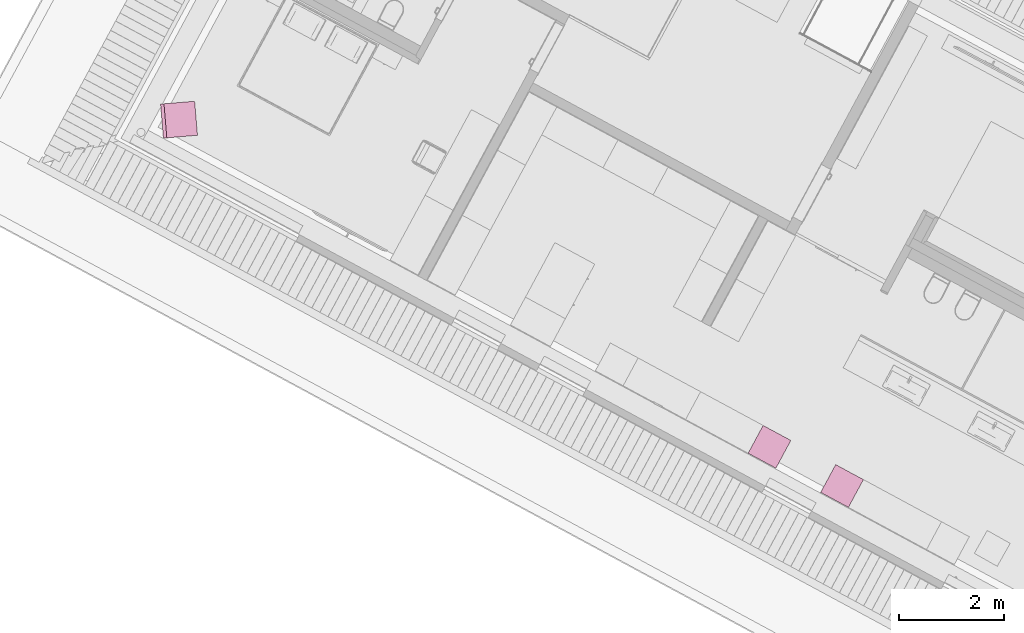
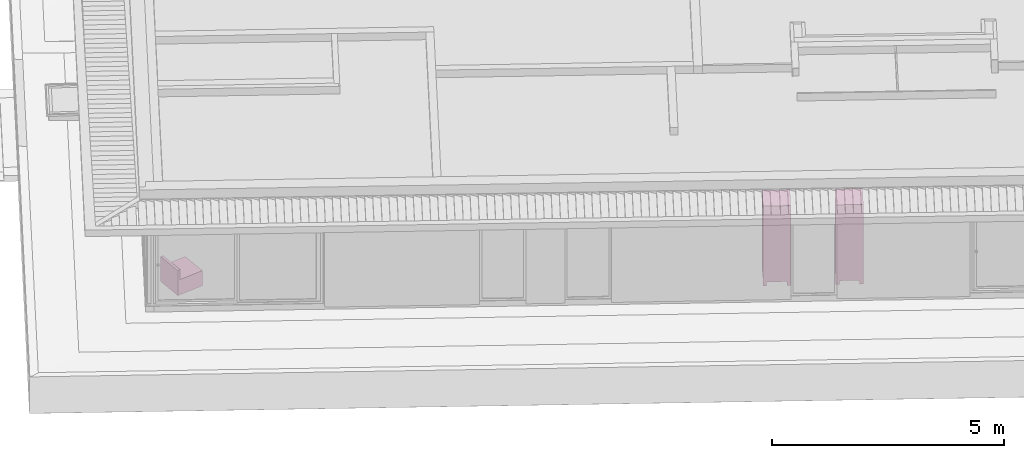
# One storey, part 21 of 48: 3 furnishings.
"""IFC2X3 building model written with IfcOpenShell, lengths in metres."""

import ifcopenshell
import ifcopenshell.guid

model = None  # the IFC model being written
_history = None  # IfcOwnerHistory: only IFC2X3 demands one
_inside = {}  # id of a spatial element -> (the spatial element, [elements in it])
_under = {}  # id of a project, library or spatial element -> (it, [spatial elements below it])
_declared = {}  # id of a project -> (the project, [libraries it declares])
_typed = {}  # id of a type object -> (the type object, [elements of that type])
_made_of = {}  # id of a material, layer set ... -> (it, [elements and type objects made of it])


def new_model(schema):
    """Start an empty IFC model of exactly this schema.

    Asked for "IFC4X3", IfcOpenShell would pick the latest addendum, in which some entities
    have other attributes; the version numbers below select the first issue.
    IFC2X3 requires an IfcOwnerHistory on every rooted entity: one is made here for all.
    """
    global model, _history
    if schema == "IFC4X3":
        model = ifcopenshell.file(schema_version=(4, 3, 0, 0))
    else:
        model = ifcopenshell.file(schema=schema)
    _inside.clear()
    _under.clear()
    _declared.clear()
    _typed.clear()
    _made_of.clear()
    _history = None
    if model.schema == "IFC2X3":
        org = make("IfcOrganization", Name="unknown")
        user = make(
            "IfcPersonAndOrganization",
            ThePerson=make("IfcPerson", FamilyName="unknown"),
            TheOrganization=org,
        )
        app = make(
            "IfcApplication",
            ApplicationDeveloper=org,
            Version="unknown",
            ApplicationFullName="unknown",
            ApplicationIdentifier="unknown",
        )
        _history = make(
            "IfcOwnerHistory",
            OwningUser=user,
            OwningApplication=app,
            ChangeAction="ADDED",
            CreationDate=0,
        )
    return model


def make(cls, **values):
    """One entity of the class cls with the attributes given. An attribute that is None is left unset."""
    return model.create_entity(
        cls, **{name: value for name, value in values.items() if value is not None}
    )


def entity(cls, *values):
    """Any entity or typed value of the class cls, its attributes in the order of the schema. None: left unset."""
    e = model.create_entity(cls)
    for i, value in enumerate(values):
        if value is not None:
            e[i] = value
    return e


def rooted(cls, **values):
    """An entity with a GlobalId (a new one), such as an element, a storey or a relation."""
    return make(cls, GlobalId=ifcopenshell.guid.new(), OwnerHistory=_history, **values)


def si_unit(unit_type, name, prefix=None):
    """IfcSIUnit, for example si_unit("LENGTHUNIT", "METRE", prefix="MILLI")."""
    return make("IfcSIUnit", UnitType=unit_type, Prefix=prefix, Name=name)


def converted_unit(unit_type, name, factor, base, dimensions=None, offset=None):
    """IfcConversionBasedUnit, such as the inch: factor (a typed value) times the base unit."""
    return make(
        "IfcConversionBasedUnit"
        if offset is None
        else "IfcConversionBasedUnitWithOffset",
        ConversionOffset=offset,
        Dimensions=None
        if dimensions is None
        else entity("IfcDimensionalExponents", *dimensions),
        UnitType=unit_type,
        Name=name,
        ConversionFactor=make(
            "IfcMeasureWithUnit", ValueComponent=factor, UnitComponent=base
        ),
    )


def derived_unit(unit_type, elements):
    """IfcDerivedUnit: a product of units, each with its exponent."""
    return make(
        "IfcDerivedUnit",
        Elements=[
            make("IfcDerivedUnitElement", Unit=unit, Exponent=power)
            for unit, power in elements
        ],
        UnitType=unit_type,
    )


def money_unit(currency):
    """IfcMonetaryUnit."""
    return make("IfcMonetaryUnit", Currency=currency)


def assignment(units):
    """IfcUnitAssignment: the units of a project."""
    return None if units is None else make("IfcUnitAssignment", Units=units)


def point(xyz):
    """IfcCartesianPoint."""
    return None if xyz is None else make("IfcCartesianPoint", Coordinates=xyz)


def direction(xyz):
    """IfcDirection."""
    return None if xyz is None else make("IfcDirection", DirectionRatios=xyz)


def frame(location, z_axis=None, x_axis=None):
    """IfcAxis2Placement3D, a coordinate frame: its origin and axes. An axis left out is left unset."""
    return make(
        "IfcAxis2Placement3D",
        Location=point(location),
        Axis=direction(z_axis),
        RefDirection=direction(x_axis),
    )


def origin_with_axes():
    """The frame at (0, 0, 0) with the z axis (0, 0, 1) and the x axis (1, 0, 0) written out."""
    return frame((0.0, 0.0, 0.0), z_axis=(0.0, 0.0, 1.0), x_axis=(1.0, 0.0, 0.0))


def place(relative_to, where):
    """IfcLocalPlacement: puts the frame where relative to a parent placement (None: the world)."""
    return make(
        "IfcLocalPlacement", PlacementRelTo=relative_to, RelativePlacement=where
    )


def context(
    kind, dimensions, precision=None, world=None, true_north=None, identifier=None
):
    """IfcGeometricRepresentationContext, for example the 3D "Model" context."""
    return make(
        "IfcGeometricRepresentationContext",
        ContextIdentifier=identifier,
        ContextType=kind,
        CoordinateSpaceDimension=dimensions,
        Precision=precision,
        WorldCoordinateSystem=world,
        TrueNorth=true_north,
    )


def subcontext(parent, identifier, kind, view, scale=None):
    """IfcGeometricRepresentationSubContext, for example "Body" below "Model"."""
    return make(
        "IfcGeometricRepresentationSubContext",
        ContextIdentifier=identifier,
        ContextType=kind,
        ParentContext=parent,
        TargetScale=scale,
        TargetView=view,
    )


def project(units=None, contexts=None):
    """IfcProject with its units and contexts."""
    return rooted(
        "IfcProject",
        Name="project",
        RepresentationContexts=contexts,
        UnitsInContext=assignment(units),
    )


def spatial(cls, under=None, at=None, **own):
    """A site, building, storey or space (cls), placed at a placement, below another one or the project."""
    s = rooted(cls, ObjectPlacement=at, **own)
    if under is not None:
        _under.setdefault(under.id(), (under, []))[1].append(s)
    return s


def faces_of(points, faces, orient=None, outer=None):
    """IfcFace entities. A face is a list of loops; a loop is a list of indices into points, from 0.

    orient and outer hold one flag for each loop. By default every Orientation is true, the
    first loop of a face is its IfcFaceOuterBound and the others are IfcFaceBound.
    """
    made = []
    for i, loops in enumerate(faces):
        bounds = []
        for j, loop in enumerate(loops):
            is_outer = j == 0 if outer is None else outer[i][j]
            bounds.append(
                make(
                    "IfcFaceOuterBound" if is_outer else "IfcFaceBound",
                    Bound=make("IfcPolyLoop", Polygon=[points[k] for k in loop]),
                    Orientation=True if orient is None else orient[i][j],
                )
            )
        made.append(make("IfcFace", Bounds=bounds))
    return made


def faceted_brep(points, faces, orient=None, outer=None, voids=None):
    """IfcFacetedBrep: a solid bounded by flat faces; with voids (closed shells), ...WithVoids."""
    shared = [point(p) for p in points]
    hull = make("IfcClosedShell", CfsFaces=faces_of(shared, faces, orient, outer))
    if voids is None:
        return make("IfcFacetedBrep", Outer=hull)
    return make(
        "IfcFacetedBrepWithVoids",
        Outer=hull,
        Voids=[
            make(cls, CfsFaces=faces_of(shared, fs, o, b)) for cls, fs, o, b in voids
        ],
    )


def shape(context_of_items, identifier, shape_type, items):
    """IfcShapeRepresentation: the items that make up one representation, for example the "Body"."""
    return make(
        "IfcShapeRepresentation",
        ContextOfItems=context_of_items,
        RepresentationIdentifier=identifier,
        RepresentationType=shape_type,
        Items=items,
    )


def source(mapping_origin, context_of_items, identifier, shape_type, items):
    """IfcRepresentationMap: a shape defined once, which mapped items show again and again."""
    return make(
        "IfcRepresentationMap",
        MappingOrigin=mapping_origin,
        MappedRepresentation=shape(context_of_items, identifier, shape_type, items),
    )


def transform(
    local_origin,
    x_axis=None,
    y_axis=None,
    z_axis=None,
    scale=None,
    scale2=None,
    scale3=None,
    uniform=True,
):
    """IfcCartesianTransformationOperator3D, or its non-uniform kind. x_axis, y_axis, z_axis: its Axis1, 2, 3."""
    if uniform:
        return make(
            "IfcCartesianTransformationOperator3D",
            Axis1=direction(x_axis),
            Axis2=direction(y_axis),
            LocalOrigin=point(local_origin),
            Scale=scale,
            Axis3=direction(z_axis),
        )
    return make(
        "IfcCartesianTransformationOperator3DnonUniform",
        Axis1=direction(x_axis),
        Axis2=direction(y_axis),
        LocalOrigin=point(local_origin),
        Scale=scale,
        Axis3=direction(z_axis),
        Scale2=scale2,
        Scale3=scale3,
    )


def mapped(mapping_source, mapping_target):
    """IfcMappedItem: shows the shape of a source again, moved by a transform."""
    return make(
        "IfcMappedItem", MappingSource=mapping_source, MappingTarget=mapping_target
    )


def made_of(thing, what):
    """Note that an element or type object is made of a material, layer set ...; save() writes the relation."""
    if what is not None:
        _made_of.setdefault(what.id(), (what, []))[1].append(thing)
    return thing


def type_object(cls, material=None, **own):
    """A type object (cls), such as IfcWallType, which elements share."""
    return made_of(rooted(cls, **own), material)


def element(
    cls,
    number,
    at=None,
    inside=None,
    cuts=None,
    type_object=None,
    material=None,
    context=None,
    identifier="Body",
    shape_type=None,
    held_by="IfcProductDefinitionShape",
    body=None,
    shapes=None,
    **own,
):
    """One element of the class cls, such as IfcWall. Its Tag is "e" and its number.

    at: its placement. inside: the storey or other place that contains it. cuts: it is an
    opening in that element (IfcRelVoidsElement). A single representation is given by context,
    identifier, shape_type and body (its items); several are given by shapes. held_by: the class
    of the entity that holds the representations. save() writes the other relations.
    """
    e = rooted(cls, Tag="e%d" % number, ObjectPlacement=at, **own)
    if body is not None:
        shapes = [shape(context, identifier, shape_type, body)]
    if shapes is not None:
        e.Representation = make(held_by, Representations=shapes)
    if inside is not None:
        _inside.setdefault(inside.id(), (inside, []))[1].append(e)
    if cuts is not None:
        rooted(
            "IfcRelVoidsElement", RelatingBuildingElement=cuts, RelatedOpeningElement=e
        )
    if type_object is not None:
        _typed.setdefault(type_object.id(), (type_object, []))[1].append(e)
    return made_of(e, material)


def aggregate(whole, parts):
    """IfcRelAggregates: a whole, such as a stair, and the parts it consists of."""
    return rooted("IfcRelAggregates", RelatingObject=whole, RelatedObjects=parts)


def save(model, path):
    """Write the relations noted so far, then the file.

    IfcRelAggregates (storeys below a building ...), IfcRelContainedInSpatialStructure (elements
    in a storey), IfcRelDefinesByType, IfcRelAssociatesMaterial and IfcRelDeclares: one each for
    every whole, place, type object, material and project.
    """
    for whole, parts in _under.values():
        aggregate(whole, parts)
    for where, things in _inside.values():
        rooted(
            "IfcRelContainedInSpatialStructure",
            RelatedElements=things,
            RelatingStructure=where,
        )
    for kind, things in _typed.values():
        rooted("IfcRelDefinesByType", RelatedObjects=things, RelatingType=kind)
    for what, things in _made_of.values():
        rooted("IfcRelAssociatesMaterial", RelatedObjects=things, RelatingMaterial=what)
    for by, libraries in _declared.values():
        rooted("IfcRelDeclares", RelatingContext=by, RelatedDefinitions=libraries)
    model.write(path)


model = new_model("IFC2X3")

# Units and contexts
model_context = context("Model", 3, precision=1e-05, world=origin_with_axes(), true_north=direction((0.0, 1.0)))
body_context = subcontext(model_context, "Body", "Model", "MODEL_VIEW")
ifc_project = project(units=[si_unit("LENGTHUNIT", "METRE"), si_unit("AREAUNIT", "SQUARE_METRE"), si_unit("VOLUMEUNIT", "CUBIC_METRE"), converted_unit("PLANEANGLEUNIT", "DEGREE", entity("IfcPlaneAngleMeasure", 0.0174532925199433), si_unit("PLANEANGLEUNIT", "RADIAN"), dimensions=[0, 0, 0, 0, 0, 0, 0]), money_unit("EUR"), converted_unit("TIMEUNIT", "Year", entity("IfcTimeMeasure", 31556926.0), si_unit("TIMEUNIT", "SECOND"), dimensions=[0, 0, 1, 0, 0, 0, 0]), si_unit("MASSUNIT", "GRAM", prefix="KILO"), si_unit("THERMODYNAMICTEMPERATUREUNIT", "DEGREE_CELSIUS"), si_unit("LUMINOUSINTENSITYUNIT", "LUMEN"), si_unit("ENERGYUNIT", "JOULE", prefix="MEGA"), derived_unit("THERMALCONDUCTANCEUNIT", [(si_unit("POWERUNIT", "WATT"), 1), (si_unit("LENGTHUNIT", "METRE"), -1), (si_unit("THERMODYNAMICTEMPERATUREUNIT", "KELVIN"), -1)]), derived_unit("SPECIFICHEATCAPACITYUNIT", [(si_unit("ENERGYUNIT", "JOULE"), 1), (si_unit("MASSUNIT", "GRAM", prefix="KILO"), -1), (si_unit("THERMODYNAMICTEMPERATUREUNIT", "KELVIN"), -1)]), derived_unit("MASSDENSITYUNIT", [(si_unit("MASSUNIT", "GRAM", prefix="KILO"), 1), (si_unit("VOLUMEUNIT", "CUBIC_METRE"), -1)])], contexts=[model_context])

# Site, building, storey
site_placement = place(None, frame((-3.949935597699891, 1.740105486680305, 0.0), z_axis=(0.0, 0.0, 1.0), x_axis=(0.8799804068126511, -0.475009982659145, 0.0)))
site = spatial("IfcSite", under=ifc_project, at=site_placement, Name="Gelände", CompositionType="ELEMENT")
building_placement = place(site_placement, origin_with_axes())
building = spatial("IfcBuilding", under=site, at=building_placement, Name="Gebäude", CompositionType="ELEMENT")
storey_placement = place(building_placement, frame((0.0, 0.0, 4.55), z_axis=(0.0, 0.0, 1.0), x_axis=(1.0, 0.0, 0.0)))
storey = spatial("IfcBuildingStorey", under=building, at=storey_placement, Name="Staffelgeschoss", CompositionType="ELEMENT", Elevation=4.55)

# Furnishings
furnishing_element_type_1 = type_object("IfcFurnishingElementType", Name="Kleiderschrank 22")
shared_shape_1 = source(origin_with_axes(), body_context, "Body", "Brep", [
    faceted_brep([(-0.02000000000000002, 0.6000000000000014, 0.12), (-0.02000000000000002, 0.6000000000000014, 2.05), (-0.02000000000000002, 0.5800000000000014, 2.05), (-0.02000000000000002, 0.5800000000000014, 0.12), (-0.5799999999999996, 0.6000000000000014, 0.12), (-0.5799999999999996, 0.6000000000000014, 2.05), (-0.5799999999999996, 0.5800000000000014, 2.05), (-0.5799999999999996, 0.5800000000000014, 0.12)], [[[0, 1, 2, 3]], [[4, 5, 1, 0]], [[1, 5, 6, 2]], [[3, 2, 6, 7]], [[0, 3, 7, 4]], [[7, 6, 5, 4]]]),
    faceted_brep([(-0.5999999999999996, 0.05000000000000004, 0.1), (-0.5999999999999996, 0.6000000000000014, 0.1), (-0.5799999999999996, 0.6000000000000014, 0.1), (-0.5799999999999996, 0.05000000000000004, 0.1), (-0.5999999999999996, 0.05000000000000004, 2.07), (-0.5999999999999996, 0.6000000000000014, 2.07), (-0.5799999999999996, 0.6000000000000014, 2.07), (-0.5799999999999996, 0.05000000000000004, 2.07)], [[[0, 1, 2, 3]], [[0, 4, 5, 1]], [[1, 5, 6, 2]], [[2, 6, 7, 3]], [[3, 7, 4, 0]], [[7, 6, 5, 4]]]),
    faceted_brep([(-0.02, 0.05000000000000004, 0.1), (-0.02, 0.6000000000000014, 0.1), (0.0, 0.6000000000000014, 0.1), (0.0, 0.05000000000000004, 0.1), (-0.02, 0.05000000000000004, 2.07), (-0.02, 0.6000000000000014, 2.07), (0.0, 0.6000000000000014, 2.07), (0.0, 0.05000000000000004, 2.07)], [[[0, 1, 2, 3]], [[0, 4, 5, 1]], [[1, 5, 6, 2]], [[2, 6, 7, 3]], [[3, 7, 4, 0]], [[7, 6, 5, 4]]]),
    faceted_brep([(-0.5799999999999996, 0.05000000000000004, 0.1), (-0.5799999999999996, 0.6000000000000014, 0.1), (-0.02000000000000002, 0.6000000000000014, 0.1), (-0.02000000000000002, 0.05000000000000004, 0.1), (-0.5799999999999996, 0.05000000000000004, 0.12), (-0.5799999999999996, 0.6000000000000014, 0.12), (-0.02000000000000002, 0.6000000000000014, 0.12), (-0.02000000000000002, 0.05000000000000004, 0.12)], [[[0, 1, 2, 3]], [[0, 4, 5, 1]], [[1, 5, 6, 2]], [[2, 6, 7, 3]], [[3, 7, 4, 0]], [[7, 6, 5, 4]]]),
    faceted_brep([(-0.5799999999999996, 0.05000000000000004, 2.05), (-0.5799999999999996, 0.6000000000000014, 2.05), (-0.02000000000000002, 0.6000000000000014, 2.05), (-0.02000000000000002, 0.05000000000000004, 2.05), (-0.5799999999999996, 0.05000000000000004, 2.07), (-0.5799999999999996, 0.6000000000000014, 2.07), (-0.02000000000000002, 0.6000000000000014, 2.07), (-0.02000000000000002, 0.05000000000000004, 2.07)], [[[0, 1, 2, 3]], [[0, 4, 5, 1]], [[1, 5, 6, 2]], [[2, 6, 7, 3]], [[3, 7, 4, 0]], [[7, 6, 5, 4]]]),
    faceted_brep([(-0.5999999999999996, 0.6000000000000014, 2.07), (-0.5999999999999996, 0.0, 2.07), (-0.5999999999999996, 0.0, 2.1), (-0.5999999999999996, 0.6000000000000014, 2.1), (0.0, 0.6000000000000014, 2.07), (0.0, 0.0, 2.07), (0.0, 0.0, 2.1), (0.0, 0.6000000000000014, 2.1)], [[[0, 1, 2, 3]], [[0, 4, 5, 1]], [[1, 5, 6, 2]], [[3, 2, 6, 7]], [[4, 0, 3, 7]], [[5, 4, 7, 6]]]),
    faceted_brep([(-0.07999999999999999, 0.5200000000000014, 0.0), (-0.07999999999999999, 0.5200000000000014, 0.1), (-0.07999999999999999, 0.6000000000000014, 0.1), (-0.07999999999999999, 0.6000000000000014, 0.0), (0.0, 0.5200000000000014, 0.0), (0.0, 0.5200000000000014, 0.1), (0.0, 0.6000000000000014, 0.1), (0.0, 0.6000000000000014, 0.0)], [[[0, 1, 2, 3]], [[4, 5, 1, 0]], [[1, 5, 6, 2]], [[3, 2, 6, 7]], [[0, 3, 7, 4]], [[7, 6, 5, 4]]]),
    faceted_brep([(-0.5999999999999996, 0.5200000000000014, 0.0), (-0.5999999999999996, 0.5200000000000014, 0.1), (-0.5999999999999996, 0.6000000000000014, 0.1), (-0.5999999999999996, 0.6000000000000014, 0.0), (-0.5199999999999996, 0.5200000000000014, 0.0), (-0.5199999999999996, 0.5200000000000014, 0.1), (-0.5199999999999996, 0.6000000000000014, 0.1), (-0.5199999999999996, 0.6000000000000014, 0.0)], [[[0, 1, 2, 3]], [[4, 5, 1, 0]], [[1, 5, 6, 2]], [[3, 2, 6, 7]], [[0, 3, 7, 4]], [[7, 6, 5, 4]]]),
    faceted_brep([(-0.07999999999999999, 0.05000000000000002, 0.0), (-0.07999999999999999, 0.05000000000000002, 0.1), (-0.07999999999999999, 0.13, 0.1), (-0.07999999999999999, 0.13, 0.0), (0.0, 0.05000000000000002, 0.0), (0.0, 0.05000000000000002, 0.1), (0.0, 0.13, 0.1), (0.0, 0.13, 0.0)], [[[0, 1, 2, 3]], [[4, 5, 1, 0]], [[1, 5, 6, 2]], [[3, 2, 6, 7]], [[0, 3, 7, 4]], [[7, 6, 5, 4]]]),
    faceted_brep([(-0.5999999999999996, 0.05000000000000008, 0.0), (-0.5999999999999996, 0.05000000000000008, 0.1), (-0.5999999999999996, 0.1300000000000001, 0.1), (-0.5999999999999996, 0.1300000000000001, 0.0), (-0.5199999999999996, 0.05000000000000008, 0.0), (-0.5199999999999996, 0.05000000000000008, 0.1), (-0.5199999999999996, 0.1300000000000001, 0.1), (-0.5199999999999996, 0.1300000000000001, 0.0)], [[[0, 1, 2, 3]], [[4, 5, 1, 0]], [[1, 5, 6, 2]], [[3, 2, 6, 7]], [[0, 3, 7, 4]], [[7, 6, 5, 4]]]),
    faceted_brep([(-0.2994999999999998, 0.05, 0.1104999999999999), (-0.2994999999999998, 0.03, 0.1104999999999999), (-0.2994999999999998, 0.03000000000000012, 2.0595), (-0.2994999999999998, 0.05000000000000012, 2.0595), (-0.2694999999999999, 0.05, 0.1405), (-0.2694999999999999, 0.03000000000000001, 0.1405), (-0.2694999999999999, 0.03000000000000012, 2.0295), (-0.2694999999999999, 0.05000000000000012, 2.0295)], [[[0, 1, 2, 3]], [[4, 5, 1, 0]], [[1, 5, 6, 2]], [[3, 2, 6, 7]], [[0, 3, 7, 4]], [[7, 6, 5, 4]]]),
    faceted_brep([(-0.04050000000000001, 0.05, 0.1405), (-0.04050000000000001, 0.03000000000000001, 0.1405), (-0.04050000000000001, 0.03000000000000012, 2.0295), (-0.04050000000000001, 0.05000000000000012, 2.0295), (-0.01050000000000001, 0.05, 0.1104999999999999), (-0.01050000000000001, 0.03, 0.1104999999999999), (-0.01050000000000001, 0.03000000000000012, 2.0595), (-0.01050000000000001, 0.05000000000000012, 2.0595)], [[[0, 1, 2, 3]], [[4, 5, 1, 0]], [[1, 5, 6, 2]], [[3, 2, 6, 7]], [[0, 3, 7, 4]], [[7, 6, 5, 4]]]),
    faceted_brep([(-0.01050000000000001, 0.05, 0.1104999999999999), (-0.01050000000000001, 0.03, 0.1104999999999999), (-0.2994999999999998, 0.03, 0.1104999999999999), (-0.2994999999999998, 0.05, 0.1104999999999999), (-0.04050000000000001, 0.05, 0.1405), (-0.04050000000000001, 0.03000000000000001, 0.1405), (-0.2694999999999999, 0.03000000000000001, 0.1405), (-0.2694999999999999, 0.05, 0.1405)], [[[0, 1, 2, 3]], [[4, 5, 1, 0]], [[1, 5, 6, 2]], [[3, 2, 6, 7]], [[0, 3, 7, 4]], [[7, 6, 5, 4]]]),
    faceted_brep([(-0.04050000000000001, 0.05000000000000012, 2.0295), (-0.04050000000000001, 0.03000000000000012, 2.0295), (-0.2694999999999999, 0.03000000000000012, 2.0295), (-0.2694999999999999, 0.05000000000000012, 2.0295), (-0.01050000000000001, 0.05000000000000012, 2.0595), (-0.01050000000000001, 0.03000000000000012, 2.0595), (-0.2994999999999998, 0.03000000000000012, 2.0595), (-0.2994999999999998, 0.05000000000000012, 2.0595)], [[[0, 1, 2, 3]], [[4, 5, 1, 0]], [[1, 5, 6, 2]], [[3, 2, 6, 7]], [[0, 3, 7, 4]], [[7, 6, 5, 4]]]),
    faceted_brep([(-0.2694999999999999, 0.04500000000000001, 0.1405), (-0.2694999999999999, 0.035, 0.1405), (-0.2694999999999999, 0.03500000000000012, 2.0295), (-0.2694999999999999, 0.04500000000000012, 2.0295), (-0.04050000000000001, 0.04500000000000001, 0.1405), (-0.04050000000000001, 0.035, 0.1405), (-0.04050000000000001, 0.03500000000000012, 2.0295), (-0.04050000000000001, 0.04500000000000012, 2.0295)], [[[0, 1, 2, 3]], [[4, 5, 1, 0]], [[1, 5, 6, 2]], [[3, 2, 6, 7]], [[0, 3, 7, 4]], [[7, 6, 5, 4]]]),
    faceted_brep([(-0.2593923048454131, 0.035, 0.954), (-0.2609999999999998, 0.035, 0.96), (-0.2593923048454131, 0.035, 0.966), (-0.2549999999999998, 0.035, 0.9703923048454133), (-0.2489999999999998, 0.035, 0.972), (-0.2429999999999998, 0.035, 0.9703923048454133), (-0.2386076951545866, 0.035, 0.966), (-0.2369999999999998, 0.035, 0.96), (-0.2386076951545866, 0.035, 0.954), (-0.2429999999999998, 0.035, 0.9496076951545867), (-0.2489999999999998, 0.035, 0.948), (-0.2549999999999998, 0.035, 0.9496076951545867), (-0.2593923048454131, 0.01, 0.954), (-0.2609999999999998, 0.01, 0.96), (-0.2593923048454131, 0.01, 0.966), (-0.2549999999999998, 0.01, 0.9703923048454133), (-0.2489999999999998, 0.01, 0.972), (-0.2429999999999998, 0.01, 0.9703923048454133), (-0.2386076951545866, 0.01, 0.966), (-0.2369999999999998, 0.01, 0.96), (-0.2386076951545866, 0.01, 0.954), (-0.2429999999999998, 0.01, 0.9496076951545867), (-0.2489999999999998, 0.01, 0.948), (-0.2549999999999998, 0.01, 0.9496076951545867)], [[[0, 1, 2, 3, 4, 5, 6, 7, 8, 9, 10, 11]], [[0, 12, 13, 1]], [[1, 13, 14, 2]], [[2, 14, 15, 3]], [[3, 15, 16, 4]], [[4, 16, 17, 5]], [[5, 17, 18, 6]], [[6, 18, 19, 7]], [[7, 19, 20, 8]], [[8, 20, 21, 9]], [[9, 21, 22, 10]], [[10, 22, 23, 11]], [[11, 23, 12, 0]], [[12, 23, 22, 21, 20, 19, 18, 17, 16, 15, 14, 13]]]),
    faceted_brep([(-0.5904999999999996, 0.05, 0.1104999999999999), (-0.5904999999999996, 0.03, 0.1104999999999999), (-0.5904999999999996, 0.03000000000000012, 2.0595), (-0.5904999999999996, 0.05000000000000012, 2.0595), (-0.5604999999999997, 0.05, 0.1405), (-0.5604999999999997, 0.03000000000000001, 0.1405), (-0.5604999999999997, 0.03000000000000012, 2.0295), (-0.5604999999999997, 0.05000000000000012, 2.0295)], [[[0, 1, 2, 3]], [[4, 5, 1, 0]], [[1, 5, 6, 2]], [[3, 2, 6, 7]], [[0, 3, 7, 4]], [[7, 6, 5, 4]]]),
    faceted_brep([(-0.3314999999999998, 0.05, 0.1405), (-0.3314999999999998, 0.03000000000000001, 0.1405), (-0.3314999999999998, 0.03000000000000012, 2.0295), (-0.3314999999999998, 0.05000000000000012, 2.0295), (-0.3014999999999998, 0.05, 0.1104999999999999), (-0.3014999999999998, 0.03, 0.1104999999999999), (-0.3014999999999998, 0.03000000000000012, 2.0595), (-0.3014999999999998, 0.05000000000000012, 2.0595)], [[[0, 1, 2, 3]], [[4, 5, 1, 0]], [[1, 5, 6, 2]], [[3, 2, 6, 7]], [[0, 3, 7, 4]], [[7, 6, 5, 4]]]),
    faceted_brep([(-0.3014999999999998, 0.05, 0.1104999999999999), (-0.3014999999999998, 0.03, 0.1104999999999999), (-0.5904999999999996, 0.03, 0.1104999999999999), (-0.5904999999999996, 0.05, 0.1104999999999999), (-0.3314999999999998, 0.05, 0.1405), (-0.3314999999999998, 0.03000000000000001, 0.1405), (-0.5604999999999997, 0.03000000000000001, 0.1405), (-0.5604999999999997, 0.05, 0.1405)], [[[0, 1, 2, 3]], [[4, 5, 1, 0]], [[1, 5, 6, 2]], [[3, 2, 6, 7]], [[0, 3, 7, 4]], [[7, 6, 5, 4]]]),
    faceted_brep([(-0.3314999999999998, 0.05000000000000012, 2.0295), (-0.3314999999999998, 0.03000000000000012, 2.0295), (-0.5604999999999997, 0.03000000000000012, 2.0295), (-0.5604999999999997, 0.05000000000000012, 2.0295), (-0.3014999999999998, 0.05000000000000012, 2.0595), (-0.3014999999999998, 0.03000000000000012, 2.0595), (-0.5904999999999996, 0.03000000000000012, 2.0595), (-0.5904999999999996, 0.05000000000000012, 2.0595)], [[[0, 1, 2, 3]], [[4, 5, 1, 0]], [[1, 5, 6, 2]], [[3, 2, 6, 7]], [[0, 3, 7, 4]], [[7, 6, 5, 4]]]),
    faceted_brep([(-0.5604999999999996, 0.04500000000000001, 0.1405), (-0.5604999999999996, 0.04000000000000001, 0.1405), (-0.5604999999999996, 0.04000000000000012, 2.0295), (-0.5604999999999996, 0.04500000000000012, 2.0295), (-0.3314999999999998, 0.04500000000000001, 0.1405), (-0.3314999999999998, 0.04000000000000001, 0.1405), (-0.3314999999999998, 0.04000000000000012, 2.0295), (-0.3314999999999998, 0.04500000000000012, 2.0295)], [[[0, 1, 2, 3]], [[4, 5, 1, 0]], [[1, 5, 6, 2]], [[3, 2, 6, 7]], [[0, 3, 7, 4]], [[7, 6, 5, 4]]]),
    faceted_brep([(-0.5604999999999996, 0.04000000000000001, 0.1405), (-0.5604999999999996, 0.03500000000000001, 0.1405), (-0.5604999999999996, 0.03500000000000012, 2.0295), (-0.5604999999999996, 0.04000000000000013, 2.0295), (-0.3314999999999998, 0.04000000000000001, 0.1405), (-0.3314999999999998, 0.03500000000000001, 0.1405), (-0.3314999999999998, 0.03500000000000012, 2.0295), (-0.3314999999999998, 0.04000000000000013, 2.0295)], [[[0, 1, 2, 3]], [[4, 5, 1, 0]], [[1, 5, 6, 2]], [[3, 2, 6, 7]], [[0, 3, 7, 4]], [[7, 6, 5, 4]]]),
    faceted_brep([(-0.3406076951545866, 0.035, 0.954), (-0.3449999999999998, 0.035, 0.9496076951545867), (-0.3509999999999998, 0.035, 0.948), (-0.3569999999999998, 0.035, 0.9496076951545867), (-0.3613923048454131, 0.035, 0.954), (-0.3629999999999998, 0.035, 0.96), (-0.3613923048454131, 0.035, 0.966), (-0.3569999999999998, 0.035, 0.9703923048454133), (-0.3509999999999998, 0.035, 0.972), (-0.3449999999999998, 0.035, 0.9703923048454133), (-0.3406076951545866, 0.035, 0.966), (-0.3389999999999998, 0.035, 0.96), (-0.3406076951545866, 0.01, 0.954), (-0.3449999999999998, 0.01, 0.9496076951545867), (-0.3509999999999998, 0.01, 0.948), (-0.3569999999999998, 0.01, 0.9496076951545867), (-0.3613923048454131, 0.01, 0.954), (-0.3629999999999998, 0.01, 0.96), (-0.3613923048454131, 0.01, 0.966), (-0.3569999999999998, 0.01, 0.9703923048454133), (-0.3509999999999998, 0.01, 0.972), (-0.3449999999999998, 0.01, 0.9703923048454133), (-0.3406076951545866, 0.01, 0.966), (-0.3389999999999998, 0.01, 0.96)], [[[0, 1, 2, 3, 4, 5, 6, 7, 8, 9, 10, 11]], [[1, 0, 12, 13]], [[2, 1, 13, 14]], [[3, 2, 14, 15]], [[4, 3, 15, 16]], [[5, 4, 16, 17]], [[6, 5, 17, 18]], [[7, 6, 18, 19]], [[8, 7, 19, 20]], [[9, 8, 20, 21]], [[10, 9, 21, 22]], [[11, 10, 22, 23]], [[0, 11, 23, 12]], [[12, 23, 22, 21, 20, 19, 18, 17, 16, 15, 14, 13]]]),
])
for number, where, z_axis, x_axis, name in (
    (1, (18.55040854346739, 2.239992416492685, 0.0), (0.0, 0.0, 1.0), (-1.0, 0.0, 0.0), "Objekt-0066"),
    (2, (20.11771607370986, 2.239992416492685, 0.0), (0.0, 0.0, 1.0), (-1.0, 0.0, 0.0), "Objekt-0066"),
):
    element("IfcFurnishingElement", number, at=place(storey_placement, frame(where, z_axis=z_axis, x_axis=x_axis)), inside=storey, type_object=furnishing_element_type_1, Name=name, context=body_context, shape_type="MappedRepresentation", body=[
        mapped(shared_shape_1, transform((0.0, 0.0, 0.0))),
    ])
furnishing_element_type_2 = type_object("IfcFurnishingElementType", Name="Armstuhl 2 22")
shared_shape_2 = source(origin_with_axes(), body_context, "Body", "Brep", [
    faceted_brep([(0.65, 0.0, 0.0), (0.65, 0.0, 0.4), (0.0, 0.0, 0.4), (0.0, 0.0, 0.0), (0.65, 0.65, 0.0), (0.65, 0.65, 0.66), (0.65, 0.5850000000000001, 0.66), (0.65, 0.5850000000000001, 0.4), (0.0, 0.5850000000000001, 0.4), (0.0, 0.5850000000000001, 0.66), (0.0, 0.65, 0.66), (0.0, 0.65, 0.0)], [[[0, 1, 2, 3]], [[0, 4, 5, 6, 7, 1]], [[1, 7, 8, 2]], [[3, 2, 8, 9, 10, 11]], [[4, 0, 3, 11]], [[5, 4, 11, 10]], [[6, 5, 10, 9]], [[7, 6, 9, 8]]]),
])
furnishing_placement = place(storey_placement, frame((6.468470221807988, 1.986239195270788, 0.0), z_axis=(0.0, 0.0, 1.0), x_axis=(-0.5468398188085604, 0.8372372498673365, 0.0)))
element("IfcFurnishingElement", 3, at=furnishing_placement, inside=storey, type_object=furnishing_element_type_2, Name="Objekt-0070", context=body_context, shape_type="MappedRepresentation", body=[
    mapped(shared_shape_2, transform((0.0, 0.0, 0.0))),
])

save(model, "model.ifc")
